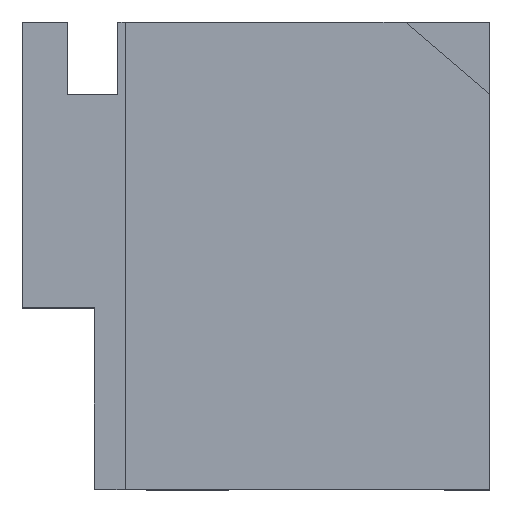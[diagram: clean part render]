
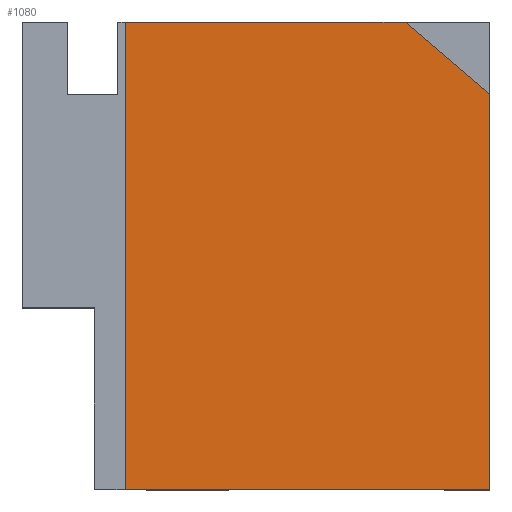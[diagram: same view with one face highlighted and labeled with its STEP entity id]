
A CAD part, top view. The second image highlights one B-rep face of the part: STEP entity #1080.
In plain terms, the highlighted planar face has unit normal (0, 0, 1).
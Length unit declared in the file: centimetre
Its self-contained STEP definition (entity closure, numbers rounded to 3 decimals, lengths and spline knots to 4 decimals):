
#12 = VERTEX_POINT ( 'NONE', #637 ) ;
#23 = DIRECTION ( 'NONE',  ( 0.761, -0.649, 0. ) ) ;
#52 = EDGE_CURVE ( 'NONE', #891, #529, #1133, .T. ) ;
#57 = AXIS2_PLACEMENT_3D ( 'NONE', #463, #977, #85 ) ;
#85 = DIRECTION ( 'NONE',  ( 1., 0., 0. ) ) ;
#93 = EDGE_CURVE ( 'NONE', #12, #1216, #112, .T. ) ;
#96 = ORIENTED_EDGE ( 'NONE', *, *, #963, .T. ) ;
#112 = LINE ( 'NONE', #511, #1305 ) ;
#117 = EDGE_CURVE ( 'NONE', #1216, #141, #1161, .T. ) ;
#137 = VECTOR ( 'NONE', #792, 100. ) ;
#141 = VERTEX_POINT ( 'NONE', #341 ) ;
#150 = DIRECTION ( 'NONE',  ( -1., 0., 0. ) ) ;
#164 = ORIENTED_EDGE ( 'NONE', *, *, #296, .T. ) ;
#193 = FACE_OUTER_BOUND ( 'NONE', #748, .T. ) ;
#201 = CARTESIAN_POINT ( 'NONE',  ( 1000., 1000., 1000. ) ) ;
#224 = VECTOR ( 'NONE', #23, 100. ) ;
#252 = CARTESIAN_POINT ( 'NONE',  ( 0., 0., 1000. ) ) ;
#296 = EDGE_CURVE ( 'NONE', #141, #529, #1194, .T. ) ;
#307 = VECTOR ( 'NONE', #150, 100. ) ;
#313 = CARTESIAN_POINT ( 'NONE',  ( 1000., 845.8122, 1000. ) ) ;
#341 = CARTESIAN_POINT ( 'NONE',  ( 1000., 0., 1000. ) ) ;
#422 = ORIENTED_EDGE ( 'NONE', *, *, #52, .F. ) ;
#434 = CARTESIAN_POINT ( 'NONE',  ( 220.053, 0., 1000. ) ) ;
#463 = CARTESIAN_POINT ( 'NONE',  ( 0., 0., 1000. ) ) ;
#477 = PLANE ( 'NONE',  #57 ) ;
#511 = CARTESIAN_POINT ( 'NONE',  ( 220.053, 1000., 1000. ) ) ;
#529 = VERTEX_POINT ( 'NONE', #1276 ) ;
#556 = CARTESIAN_POINT ( 'NONE',  ( 0., 1000., 1000. ) ) ;
#637 = CARTESIAN_POINT ( 'NONE',  ( 220.053, 1000., 1000. ) ) ;
#653 = CARTESIAN_POINT ( 'NONE',  ( 819.072, 1000., 1000. ) ) ;
#667 = LINE ( 'NONE', #556, #307 ) ;
#748 = EDGE_LOOP ( 'NONE', ( #834, #975, #164, #422, #96 ) ) ;
#792 = DIRECTION ( 'NONE',  ( 0., 1., 0. ) ) ;
#834 = ORIENTED_EDGE ( 'NONE', *, *, #93, .T. ) ;
#850 = DIRECTION ( 'NONE',  ( 1., 0., 0. ) ) ;
#891 = VERTEX_POINT ( 'NONE', #653 ) ;
#920 = VECTOR ( 'NONE', #850, 100. ) ;
#921 = DIRECTION ( 'NONE',  ( 0., -1., 0. ) ) ;
#963 = EDGE_CURVE ( 'NONE', #891, #12, #667, .T. ) ;
#975 = ORIENTED_EDGE ( 'NONE', *, *, #117, .T. ) ;
#977 = DIRECTION ( 'NONE',  ( 0., 0., 1. ) ) ;
#1080 = ADVANCED_FACE ( 'NONE', ( #193 ), #477, .T. ) ;
#1133 = LINE ( 'NONE', #313, #224 ) ;
#1161 = LINE ( 'NONE', #252, #920 ) ;
#1194 = LINE ( 'NONE', #201, #137 ) ;
#1216 = VERTEX_POINT ( 'NONE', #434 ) ;
#1276 = CARTESIAN_POINT ( 'NONE',  ( 1000., 845.8122, 1000. ) ) ;
#1305 = VECTOR ( 'NONE', #921, 100. ) ;
